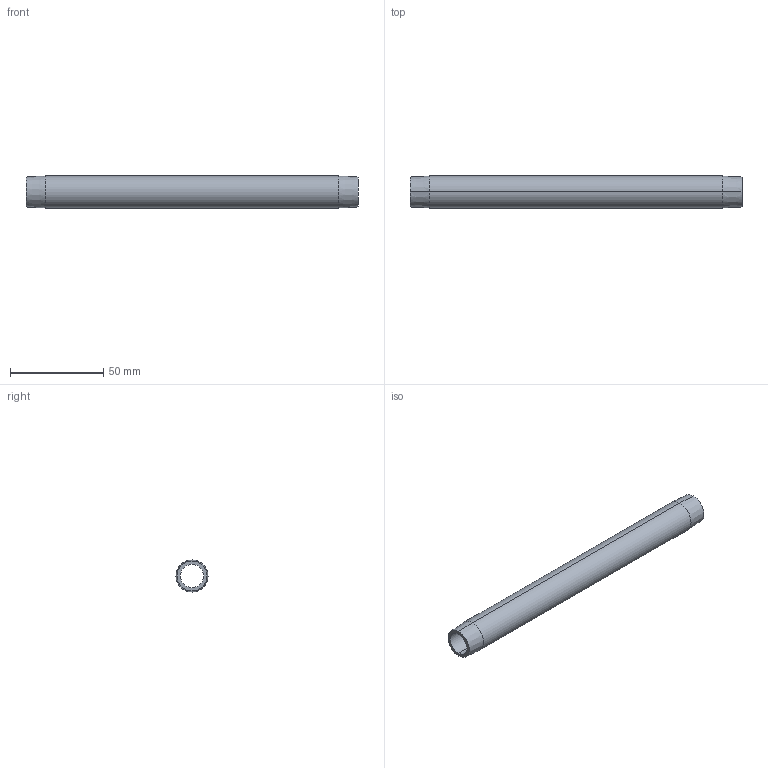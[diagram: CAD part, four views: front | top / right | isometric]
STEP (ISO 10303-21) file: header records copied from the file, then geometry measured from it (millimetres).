
FILE_DESCRIPTION (( 'STEP AP203' ), '1' );
FILE_NAME ('BPN37L7.step', '2020-08-19T07:27:16', ( 'Microsoft Corporation' ), ( 'MS' ), 'SwSTEP 2.0', 'SolidWorks 2018', '' );
FILE_SCHEMA (( 'CONFIG_CONTROL_DESIGN' ));
Length unit declared in the file: inch
Products named in the file (1): BPN37L7
Bounding box: 177.8 x 17.14 x 17.14 mm (x, y, z)
Volume: 18857.6 mm3; surface area: 16696.9 mm2
Topology: 1 solids, 1 shells, 10 faces, 20 edges, 12 vertices
Faces by surface type: cylinder 4, cone 4, plane 2
Entity records: 347 total; most frequent: DIRECTION 54, CARTESIAN_POINT 43, ORIENTED_EDGE 40, AXIS2_PLACEMENT_3D 23, EDGE_CURVE 20, CIRCLE 12, EDGE_LOOP 12, VERTEX_POINT 12
